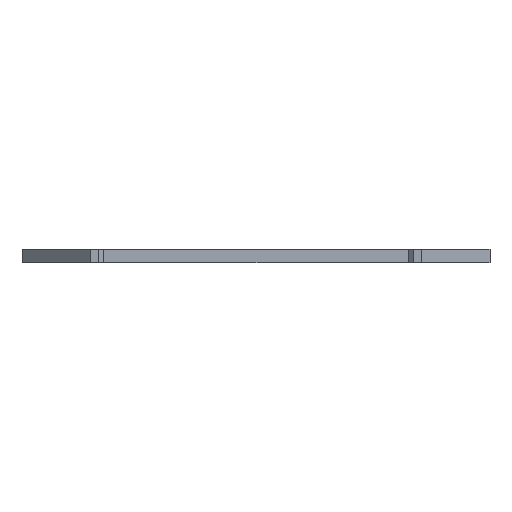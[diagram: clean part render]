
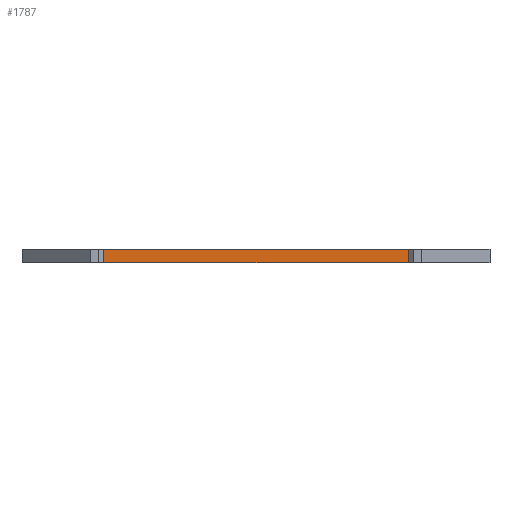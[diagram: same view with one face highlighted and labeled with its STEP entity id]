
A CAD part, front view. The second image highlights one B-rep face of the part: STEP entity #1787.
In plain terms, the highlighted planar face has unit normal (0, -1, 0).
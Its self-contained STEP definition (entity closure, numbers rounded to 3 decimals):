
#44 = PLANE('',#45);
#45 = AXIS2_PLACEMENT_3D('',#46,#47,#48);
#46 = CARTESIAN_POINT('',(0.,121.495,0.));
#47 = DIRECTION('',(0.,0.,1.));
#48 = DIRECTION('',(1.,0.,-0.));
#100 = PLANE('',#101);
#101 = AXIS2_PLACEMENT_3D('',#102,#103,#104);
#102 = CARTESIAN_POINT('',(0.,121.495,0.8));
#103 = DIRECTION('',(0.,0.,1.));
#104 = DIRECTION('',(1.,0.,-0.));
#341 = VERTEX_POINT('',#342);
#342 = CARTESIAN_POINT('',(-8.95,144.9,0.));
#355 = PLANE('',#356);
#356 = AXIS2_PLACEMENT_3D('',#357,#358,#359);
#357 = CARTESIAN_POINT('',(-8.95,144.9,-0.1));
#358 = DIRECTION('',(0.693,-0.72,0.));
#359 = DIRECTION('',(-0.72,-0.693,0.));
#366 = EDGE_CURVE('',#341,#367,#369,.T.);
#367 = VERTEX_POINT('',#368);
#368 = CARTESIAN_POINT('',(8.95,144.9,0.));
#369 = SURFACE_CURVE('',#370,(#374,#380),.PCURVE_S1.);
#370 = LINE('',#371,#372);
#371 = CARTESIAN_POINT('',(4.475,144.9,0.));
#372 = VECTOR('',#373,1.);
#373 = DIRECTION('',(1.,0.,-0.));
#374 = PCURVE('',#44,#375);
#375 = DEFINITIONAL_REPRESENTATION('',(#376),#379);
#376 = B_SPLINE_CURVE_WITH_KNOTS('',1,(#377,#378),.UNSPECIFIED.,.F.,.F.,
  (2,2),(-13.425,4.475),.PIECEWISE_BEZIER_KNOTS.);
#377 = CARTESIAN_POINT('',(-8.95,23.405));
#378 = CARTESIAN_POINT('',(8.95,23.405));
#379 = ( GEOMETRIC_REPRESENTATION_CONTEXT(2) 
PARAMETRIC_REPRESENTATION_CONTEXT() REPRESENTATION_CONTEXT('2D SPACE',''
  ) );
#380 = PCURVE('',#381,#386);
#381 = PLANE('',#382);
#382 = AXIS2_PLACEMENT_3D('',#383,#384,#385);
#383 = CARTESIAN_POINT('',(8.95,144.9,-0.1));
#384 = DIRECTION('',(0.,-1.,0.));
#385 = DIRECTION('',(-1.,0.,0.));
#386 = DEFINITIONAL_REPRESENTATION('',(#387),#390);
#387 = B_SPLINE_CURVE_WITH_KNOTS('',1,(#388,#389),.UNSPECIFIED.,.F.,.F.,
  (2,2),(-13.425,4.475),.PIECEWISE_BEZIER_KNOTS.);
#388 = CARTESIAN_POINT('',(17.9,-0.1));
#389 = CARTESIAN_POINT('',(0.,-0.1));
#390 = ( GEOMETRIC_REPRESENTATION_CONTEXT(2) 
PARAMETRIC_REPRESENTATION_CONTEXT() REPRESENTATION_CONTEXT('2D SPACE',''
  ) );
#407 = PLANE('',#408);
#408 = AXIS2_PLACEMENT_3D('',#409,#410,#411);
#409 = CARTESIAN_POINT('',(12.95,141.05,-0.1));
#410 = DIRECTION('',(-0.693,-0.72,0.));
#411 = DIRECTION('',(-0.72,0.693,0.));
#996 = VERTEX_POINT('',#997);
#997 = CARTESIAN_POINT('',(-8.95,144.9,0.8));
#1016 = EDGE_CURVE('',#996,#1017,#1019,.T.);
#1017 = VERTEX_POINT('',#1018);
#1018 = CARTESIAN_POINT('',(8.95,144.9,0.8));
#1019 = SURFACE_CURVE('',#1020,(#1024,#1030),.PCURVE_S1.);
#1020 = LINE('',#1021,#1022);
#1021 = CARTESIAN_POINT('',(4.475,144.9,0.8));
#1022 = VECTOR('',#1023,1.);
#1023 = DIRECTION('',(1.,0.,-0.));
#1024 = PCURVE('',#100,#1025);
#1025 = DEFINITIONAL_REPRESENTATION('',(#1026),#1029);
#1026 = B_SPLINE_CURVE_WITH_KNOTS('',1,(#1027,#1028),.UNSPECIFIED.,.F.,
  .F.,(2,2),(-13.425,4.475),.PIECEWISE_BEZIER_KNOTS.);
#1027 = CARTESIAN_POINT('',(-8.95,23.405));
#1028 = CARTESIAN_POINT('',(8.95,23.405));
#1029 = ( GEOMETRIC_REPRESENTATION_CONTEXT(2) 
PARAMETRIC_REPRESENTATION_CONTEXT() REPRESENTATION_CONTEXT('2D SPACE',''
  ) );
#1030 = PCURVE('',#381,#1031);
#1031 = DEFINITIONAL_REPRESENTATION('',(#1032),#1035);
#1032 = B_SPLINE_CURVE_WITH_KNOTS('',1,(#1033,#1034),.UNSPECIFIED.,.F.,
  .F.,(2,2),(-13.425,4.475),.PIECEWISE_BEZIER_KNOTS.);
#1033 = CARTESIAN_POINT('',(17.9,-0.9));
#1034 = CARTESIAN_POINT('',(0.,-0.9));
#1035 = ( GEOMETRIC_REPRESENTATION_CONTEXT(2) 
PARAMETRIC_REPRESENTATION_CONTEXT() REPRESENTATION_CONTEXT('2D SPACE',''
  ) );
#1767 = EDGE_CURVE('',#367,#1017,#1768,.T.);
#1768 = SURFACE_CURVE('',#1769,(#1773,#1780),.PCURVE_S1.);
#1769 = LINE('',#1770,#1771);
#1770 = CARTESIAN_POINT('',(8.95,144.9,-0.1));
#1771 = VECTOR('',#1772,1.);
#1772 = DIRECTION('',(0.,0.,1.));
#1773 = PCURVE('',#407,#1774);
#1774 = DEFINITIONAL_REPRESENTATION('',(#1775),#1779);
#1775 = LINE('',#1776,#1777);
#1776 = CARTESIAN_POINT('',(5.552,0.));
#1777 = VECTOR('',#1778,1.);
#1778 = DIRECTION('',(0.,-1.));
#1779 = ( GEOMETRIC_REPRESENTATION_CONTEXT(2) 
PARAMETRIC_REPRESENTATION_CONTEXT() REPRESENTATION_CONTEXT('2D SPACE',''
  ) );
#1780 = PCURVE('',#381,#1781);
#1781 = DEFINITIONAL_REPRESENTATION('',(#1782),#1786);
#1782 = LINE('',#1783,#1784);
#1783 = CARTESIAN_POINT('',(0.,-0.));
#1784 = VECTOR('',#1785,1.);
#1785 = DIRECTION('',(0.,-1.));
#1786 = ( GEOMETRIC_REPRESENTATION_CONTEXT(2) 
PARAMETRIC_REPRESENTATION_CONTEXT() REPRESENTATION_CONTEXT('2D SPACE',''
  ) );
#1787 = ADVANCED_FACE('',(#1788),#381,.T.);
#1788 = FACE_BOUND('',#1789,.T.);
#1789 = EDGE_LOOP('',(#1790,#1791,#1792,#1793));
#1790 = ORIENTED_EDGE('',*,*,#366,.T.);
#1791 = ORIENTED_EDGE('',*,*,#1767,.T.);
#1792 = ORIENTED_EDGE('',*,*,#1016,.F.);
#1793 = ORIENTED_EDGE('',*,*,#1794,.F.);
#1794 = EDGE_CURVE('',#341,#996,#1795,.T.);
#1795 = SURFACE_CURVE('',#1796,(#1800,#1807),.PCURVE_S1.);
#1796 = LINE('',#1797,#1798);
#1797 = CARTESIAN_POINT('',(-8.95,144.9,-0.1));
#1798 = VECTOR('',#1799,1.);
#1799 = DIRECTION('',(0.,0.,1.));
#1800 = PCURVE('',#381,#1801);
#1801 = DEFINITIONAL_REPRESENTATION('',(#1802),#1806);
#1802 = LINE('',#1803,#1804);
#1803 = CARTESIAN_POINT('',(17.9,0.));
#1804 = VECTOR('',#1805,1.);
#1805 = DIRECTION('',(0.,-1.));
#1806 = ( GEOMETRIC_REPRESENTATION_CONTEXT(2) 
PARAMETRIC_REPRESENTATION_CONTEXT() REPRESENTATION_CONTEXT('2D SPACE',''
  ) );
#1807 = PCURVE('',#355,#1808);
#1808 = DEFINITIONAL_REPRESENTATION('',(#1809),#1813);
#1809 = LINE('',#1810,#1811);
#1810 = CARTESIAN_POINT('',(0.,0.));
#1811 = VECTOR('',#1812,1.);
#1812 = DIRECTION('',(0.,-1.));
#1813 = ( GEOMETRIC_REPRESENTATION_CONTEXT(2) 
PARAMETRIC_REPRESENTATION_CONTEXT() REPRESENTATION_CONTEXT('2D SPACE',''
  ) );
